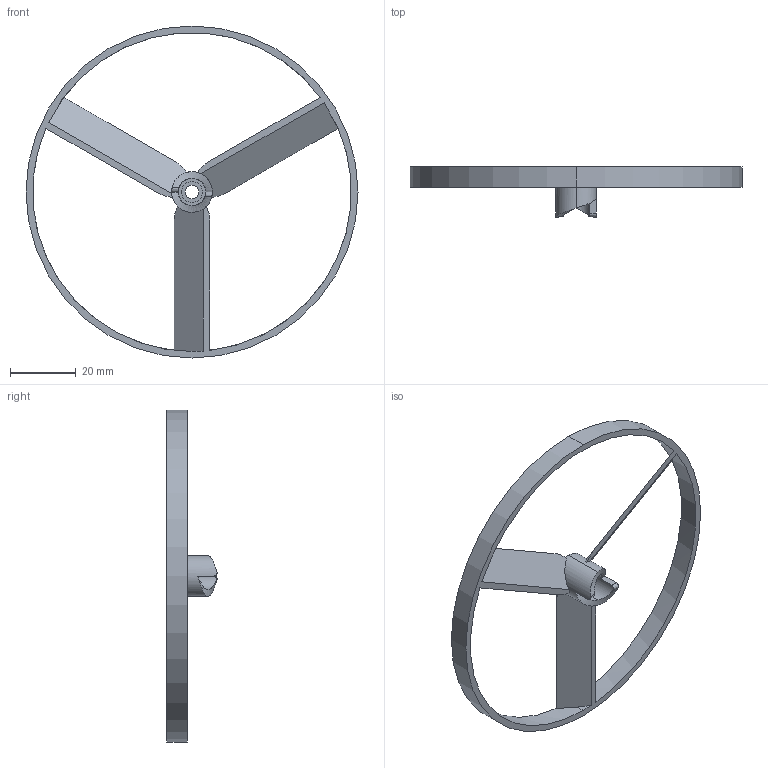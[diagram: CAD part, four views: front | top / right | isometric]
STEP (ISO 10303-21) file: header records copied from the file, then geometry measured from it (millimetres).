
FILE_DESCRIPTION (( 'STEP AP214' ), '1' );
FILE_NAME ('228-2500-1447.STEP', '2016-11-22T16:34:04', ( '' ), ( '' ), 'SwSTEP 2.0', 'SolidWorks 2016', '' );
FILE_SCHEMA (( 'AUTOMOTIVE_DESIGN' ));
Length unit declared in the file: millimetre
Products named in the file (1): 228-2500-1447
Bounding box: 101.3 x 15.35 x 101.3 mm (x, y, z)
Volume: 6379.8 mm3; surface area: 9558.5 mm2
Topology: 1 solids, 1 shells, 63 faces, 182 edges, 121 vertices
Faces by surface type: plane 28, cylinder 27, cone 4, bspline 4
Entity records: 2408 total; most frequent: CARTESIAN_POINT 775, ORIENTED_EDGE 364, DIRECTION 314, EDGE_CURVE 182, VERTEX_POINT 121, AXIS2_PLACEMENT_3D 116, LINE 82, VECTOR 82
